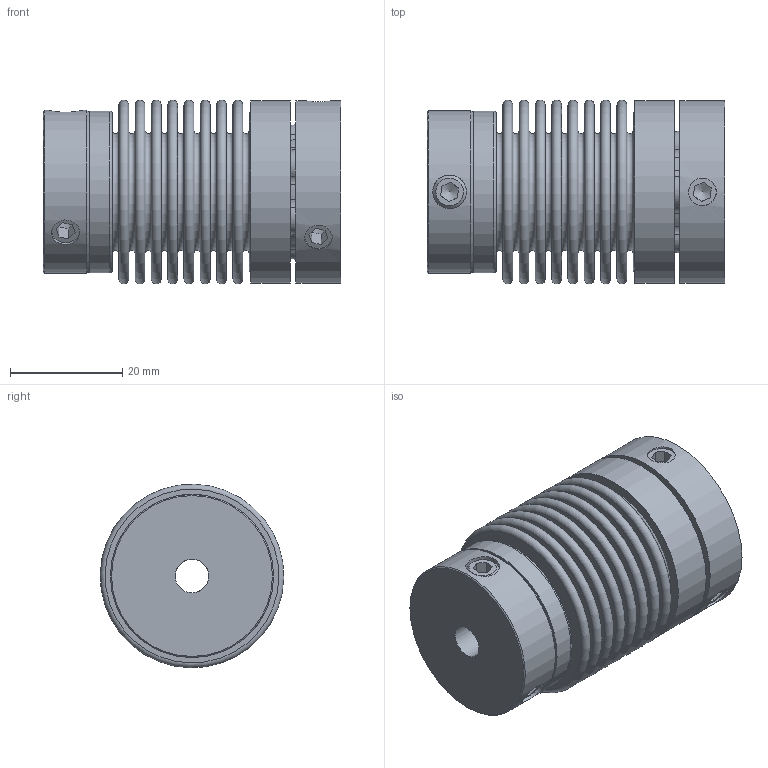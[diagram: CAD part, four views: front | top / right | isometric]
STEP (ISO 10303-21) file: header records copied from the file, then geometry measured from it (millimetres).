
FILE_DESCRIPTION( ( 'KBE1/14 - N7H8 - N14H7 - 98 Sh' ), '1' );
FILE_NAME( 'K:/Konstruktion/Fertigungszeichnungen/Metallbalgkupplung/KB1P/45/KB1P-45-52.stp', '14.12.2015', ( 'KBK-Antriebstechnik' ), ( 'KBK-Antriebstechnik' ), 'PSStep 16.0.42', 'Solid Edge St6', ' ' );
FILE_SCHEMA( ( 'AUTOMOTIVE_DESIGN { 1 0 10303 214 1 1 1 1 }' ) );
Length unit declared in the file: millimetre
Products named in the file (6): Assem1; Gewindestift_DIN_916-m6x6-45h; Stecknabe KB1P-45; Balgaufnahme KB2P-45 für Step; MN45_Standard_1; BL45_Standard_0
Assembly tree (8 placements, depth 2):
  Assem1
    Gewindestift_DIN_916-m6x6-45h  x4
    Stecknabe KB1P-45
    Balgaufnahme KB2P-45 für Step
    MN45_Standard_1
    BL45_Standard_0
Bounding box: 52.95 x 32.66 x 32.66 mm (x, y, z)
Volume: 22348.8 mm3; surface area: 30143.4 mm2
Topology: 8 solids, 8 shells, 198 faces, 433 edges, 283 vertices
Faces by surface type: plane 78, cone 63, torus 38, cylinder 19
Full cylindrical faces by diameter (mm): 4.917 x2, 5 x1, 6 x7, 28.2 x3, 28.8 x2, 29 x1, 32.5 x2
Entity records: 6023 total; most frequent: CARTESIAN_POINT 1147, DIRECTION 801, ORIENTED_EDGE 548, AXIS2_PLACEMENT_3D 370, EDGE_CURVE 274, EDGE_LOOP 273, VERTEX_POINT 234, FACE_OUTER_BOUND 215
